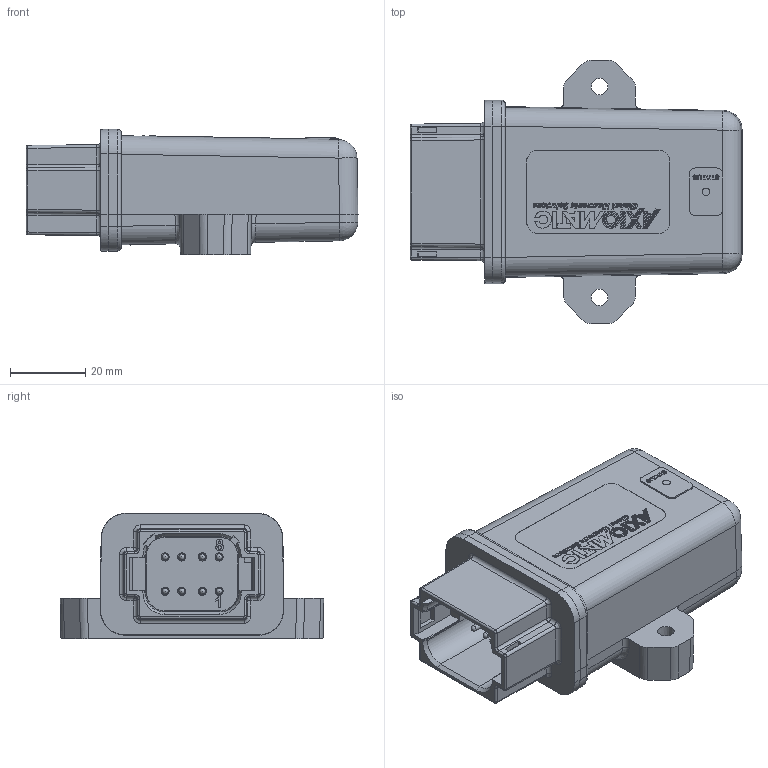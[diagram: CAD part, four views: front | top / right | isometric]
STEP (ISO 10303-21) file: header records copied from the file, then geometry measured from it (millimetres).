
FILE_DESCRIPTION(/* description */ ('nylon 6/6 30% glass fill pin block'),/* implementation_level */ '2;1');
FILE_NAME(/* name */ 'S:\Projects\CAN-2OUT-LC, AX020200, Proj_15004\UNIT ASSEMBLY\RELEASED\parts\8 pin welded housing.stp',/* time_stamp */ '2019-12-04T16:54:01-05:00',/* author */ ('tfisher'),/* organization */ (''),/* preprocessor_version */ 'ST-DEVELOPER v15.2',/* originating_system */ 'Autodesk Inventor 2014',/* authorisation */ '');
FILE_SCHEMA (('AUTOMOTIVE_DESIGN { 1 0 10303 214 3 1 1 }'));
Products named in the file (12): IJT-15004-03-R1 pin block; IJT-13011-03-R1 upper pin; IJT-13011-03-R1 lower pin; IJT-15004-03-R1; IJT-15004-01-R1; IJT-15004-02-R1; PLP5-2-625; LBM-BARSNJOB-01-R1; MG-15004-01 for STEP; LBP-15004-01-R1; LBM-AX020200-01-R1 for STEP; FG-AX020200 for STEP
Assembly tree (17 placements, depth 4):
  FG-AX020200 for STEP
    MG-15004-01 for STEP
      IJT-15004-03-R1
        IJT-15004-03-R1 pin block
        IJT-13011-03-R1 upper pin  x4
        IJT-13011-03-R1 lower pin  x4
      IJT-15004-01-R1
      IJT-15004-02-R1
      PLP5-2-625
      LBM-BARSNJOB-01-R1
    LBP-15004-01-R1
    LBM-AX020200-01-R1 for STEP
Bounding box: 88.23 x 70 x 33.35 mm (x, y, z)
Volume: 33030 mm3; surface area: 37360.2 mm2
Topology: 16 solids, 16 shells, 1624 faces, 4060 edges, 2572 vertices
Faces by surface type: plane 895, bspline 348, cylinder 279, sphere 58, cone 28, torus 16
Full cylindrical faces by diameter (mm): 1.524 x32, 1.575 x8, 2.032 x2, 2.184 x8, 3.861 x1, 5.004 x1
Entity records: 58313 total; most frequent: CARTESIAN_POINT 20695, ORIENTED_EDGE 7760, DIRECTION 6425, EDGE_CURVE 3880, VERTEX_POINT 2529, LINE 2521, VECTOR 2521, AXIS2_PLACEMENT_3D 1952
